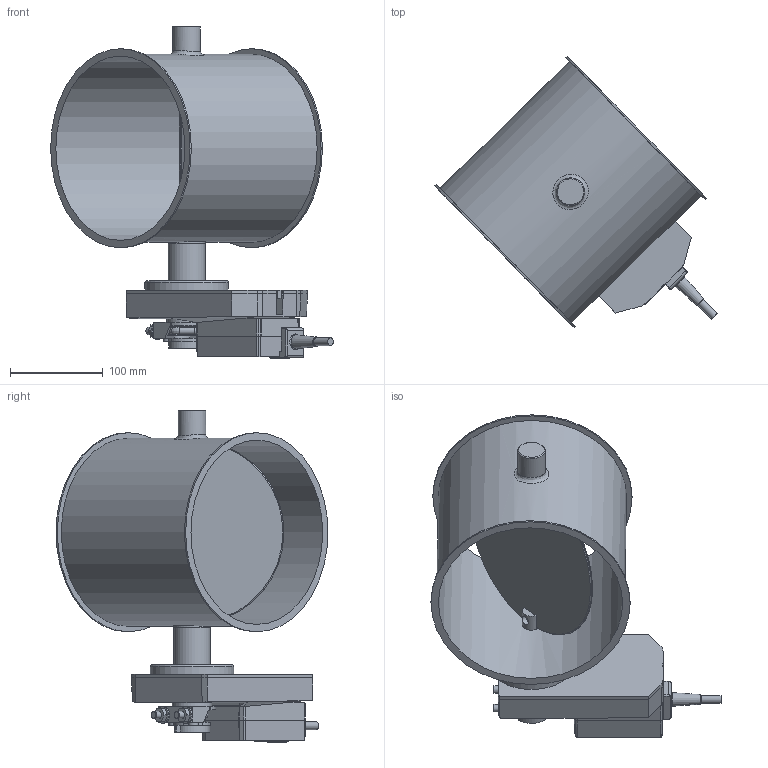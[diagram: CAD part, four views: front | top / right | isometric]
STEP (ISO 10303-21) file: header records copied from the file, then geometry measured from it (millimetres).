
FILE_DESCRIPTION((''),'2;1');
FILE_NAME('U:\Wolfgang\Marcel-3D\fertig\Kapitel 8\2021215.stp','2012-01-13T11:08:16',('iwienholt'),(''),'Autodesk Inventor 2010','Autodesk Inventor 2010','');
FILE_SCHEMA(('AUTOMOTIVE_DESIGN { 1 0 10303 214 1 1 1 1 }'));
Length unit declared in the file: millimetre
Products named in the file (8): 2021215; Bolzen D20; Scheibe200b; 2021211-1; GM24A-Antrieb; Distanzstück D; GM24A-GM_A_standard_MF_MP_1cable; BuchseD20 90-50
Assembly tree (8 placements, depth 3):
  2021215
    Bolzen D20  x2
    Scheibe200b
    2021211-1
    GM24A-Antrieb
      Distanzstück D
      GM24A-GM_A_standard_MF_MP_1cable
      BuchseD20 90-50
Bounding box: 305.12 x 293.54 x 358.4 mm (x, y, z)
Volume: 1360547.3 mm3; surface area: 508522.6 mm2
Topology: 7 solids, 7 shells, 413 faces, 1065 edges, 694 vertices
Faces by surface type: plane 249, cylinder 107, bspline 42, cone 14, torus 1
Full cylindrical faces by diameter (mm): 3.6 x2, 4.2 x4, 5.1 x1, 6 x4, 7.25 x4, 8 x4, 8.4 x1, 9 x4, 9.742 x1, 10 x6, 10.083 x1, 18.2 x2, 20 x4, 20.5 x1, 27.01 x1, 30 x2, 30.042 x1, 34 x1, 34.5 x1, 40 x2, 43 x3, 90 x1, 199 x2, 203 x1, 215 x2
Entity records: 13108 total; most frequent: CARTESIAN_POINT 3166, ORIENTED_EDGE 1894, DIRECTION 1866, EDGE_CURVE 947, VERTEX_POINT 656, AXIS2_PLACEMENT_3D 629, VECTOR 608, LINE 608
